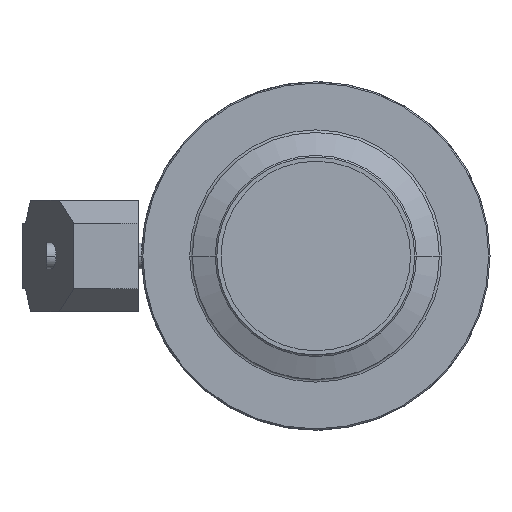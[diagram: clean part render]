
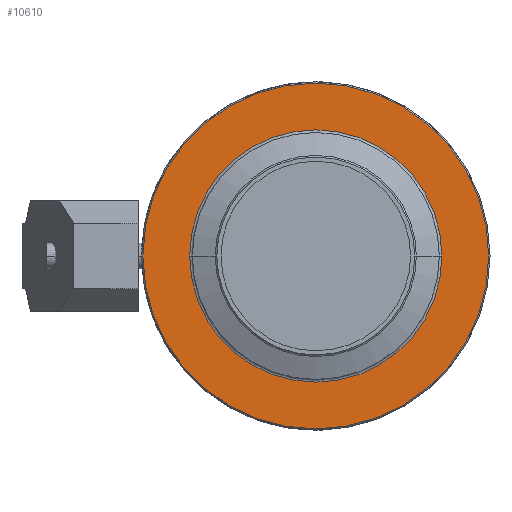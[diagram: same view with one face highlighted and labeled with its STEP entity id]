
A CAD part, left-side view. The second image highlights one B-rep face of the part: STEP entity #10610.
In plain terms, the highlighted planar face has unit normal (-1, 0, 0).
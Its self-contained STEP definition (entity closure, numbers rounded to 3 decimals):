
#10130=CARTESIAN_POINT('',(24.717,-74.188,0.));
#10140=VERTEX_POINT('',#10130);
#10220=CARTESIAN_POINT('',(24.717,58.812,
0.));
#10230=VERTEX_POINT('',#10220);
#10260=CARTESIAN_POINT('',(24.717,-7.688,0.));
#10270=DIRECTION('',(1.,0.,0.));
#10280=DIRECTION('',(0.,1.,0.));
#10290=AXIS2_PLACEMENT_3D('',#10260,#10270,#10280);
#10300=CIRCLE('',#10290,66.5);
#10310=EDGE_CURVE('',#10140,#10230,#10300,.T.);
#10360=CARTESIAN_POINT('',(24.717,56.712,0.));
#10370=DIRECTION('',(-1.,0.,0.));
#10380=DIRECTION('',(0.,1.,0.));
#10390=AXIS2_PLACEMENT_3D('',#10360,#10370,#10380);
#10400=PLANE('',#10390);
#10410=CARTESIAN_POINT('',(24.717,-7.688,0.));
#10420=DIRECTION('',(1.,0.,0.));
#10430=DIRECTION('',(0.,1.,0.));
#10440=AXIS2_PLACEMENT_3D('',#10410,#10420,#10430);
#10450=CIRCLE('',#10440,48.5);
#10460=CARTESIAN_POINT('',(24.717,40.812,0.));
#10470=VERTEX_POINT('',#10460);
#10480=CARTESIAN_POINT('',(24.717,-56.188,0.));
#10490=VERTEX_POINT('',#10480);
#10500=EDGE_CURVE('',#10470,#10490,#10450,.T.);
#10510=ORIENTED_EDGE('',*,*,#10500,.T.);
#10520=EDGE_CURVE('',#10490,#10470,#10450,.T.);
#10530=ORIENTED_EDGE('',*,*,#10520,.T.);
#10540=EDGE_LOOP('',(#10530,#10510));
#10550=FACE_BOUND('',#10540,.T.);
#10560=EDGE_CURVE('',#10230,#10140,#10300,.T.);
#10570=ORIENTED_EDGE('',*,*,#10560,.F.);
#10580=ORIENTED_EDGE('',*,*,#10310,.F.);
#10590=EDGE_LOOP('',(#10580,#10570));
#10600=FACE_OUTER_BOUND('',#10590,.T.);
#10610=ADVANCED_FACE('',(#10550,#10600),#10400,.T.);
